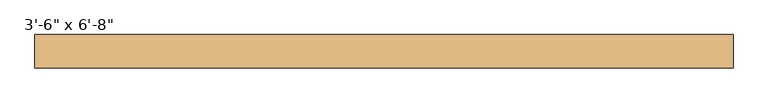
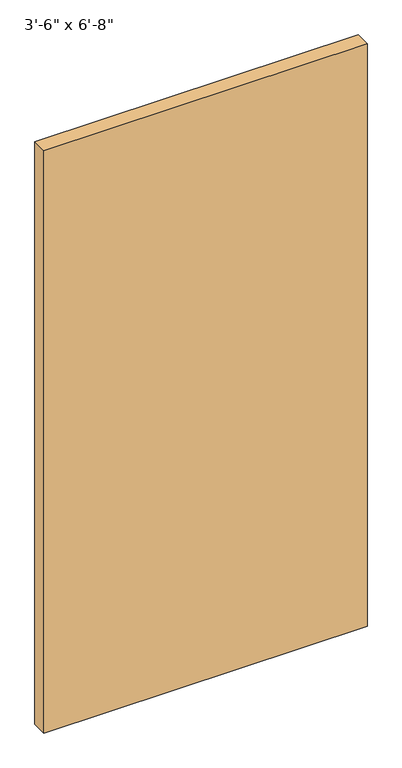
"""IFC4 building model written with IfcOpenShell, lengths in millimetres: door geometry."""

from ifc_helpers import new_model, si_unit, origin, origin_with_axes, place, context, project, spatial, polyline, outline, extrude, source, transform, mapped, element, save


def door_eb678732(model_context):
    return source(origin(), model_context, "Body", "SweptSolid", [
        extrude(outline(polyline([(533.4, -63.3015625), (533.4, -114.3), (-533.4, -114.3), (-533.4, -63.3015625), (533.4, -63.3015625)])), origin_with_axes(), (0.0, 0.0, 1.0), 2032.0),
    ])


if __name__ == "__main__":
    model = new_model("IFC4")
    model_context = context("Model", 3, world=origin())
    ifc_project = project(units=[si_unit("LENGTHUNIT", "METRE", prefix="MILLI")], contexts=[model_context])
    site = spatial("IfcSite", under=ifc_project)
    building = spatial("IfcBuilding", under=site)
    placement = place(None, origin())
    door_shape = door_eb678732(model_context)
    element("IfcDoor", 1, ObjectType="Planitar - Single Door_Flush Panel : 3'-6\" x 6'-8\"", at=placement, inside=building, context=model_context, shape_type="MappedRepresentation", body=[
        mapped(door_shape, transform((0.0, 0.0, 0.0), x_axis=(1.0, 0.0, 0.0), y_axis=(0.0, 1.0, 0.0), z_axis=(0.0, 0.0, 1.0))),
    ])
    save(model, "model.ifc")
